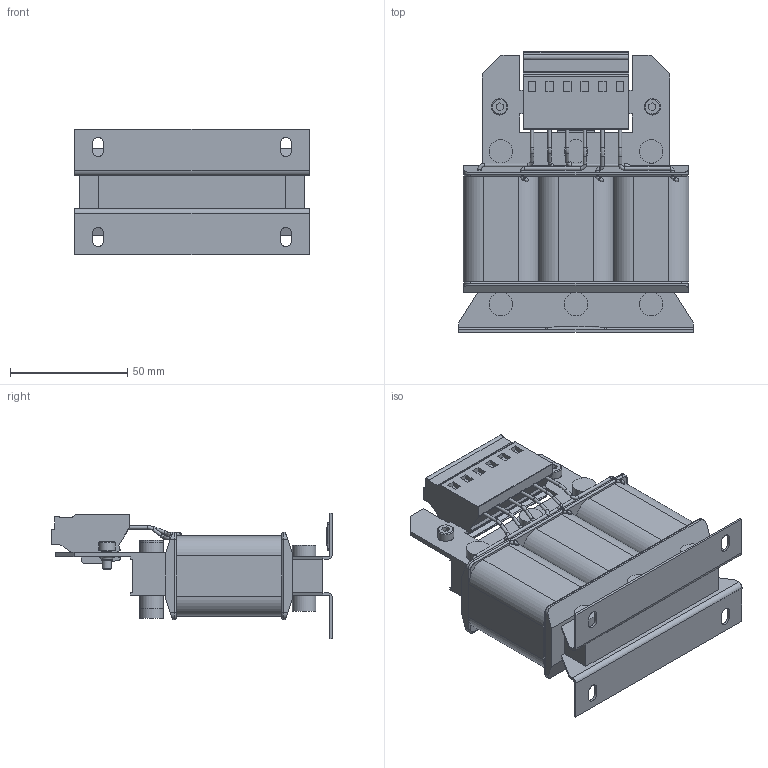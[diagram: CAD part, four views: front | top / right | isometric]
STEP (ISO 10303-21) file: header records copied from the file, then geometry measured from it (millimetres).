
FILE_DESCRIPTION (( 'STEP AP214' ), '1' );
FILE_NAME ('07Z1B03-1000.STEP', '2022-04-07T09:42:50', ( '' ), ( '' ), 'SwSTEP 2.0', 'SolidWorks 2019', '' );
FILE_SCHEMA (( 'AUTOMOTIVE_DESIGN' ));
Length unit declared in the file: millimetre
Products named in the file (1): 07Z1B03-1000
Bounding box: 100 x 119.5 x 53.3 mm (x, y, z)
Volume: 241989.2 mm3; surface area: 48655.5 mm2
Topology: 1 solids, 1 shells, 406 faces, 1079 edges, 700 vertices
Faces by surface type: plane 219, cylinder 121, torus 40, bspline 22, cone 4
Full cylindrical faces by diameter (mm): 1.4 x33, 4 x4, 4.78 x2, 7 x2, 10 x12
Entity records: 13425 total; most frequent: CARTESIAN_POINT 3781, ORIENTED_EDGE 1922, DIRECTION 1804, EDGE_CURVE 961, VERTEX_POINT 671, AXIS2_PLACEMENT_3D 616, LINE 572, VECTOR 572
